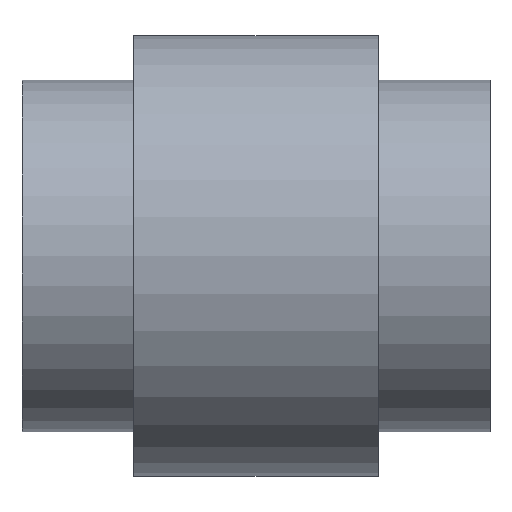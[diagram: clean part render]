
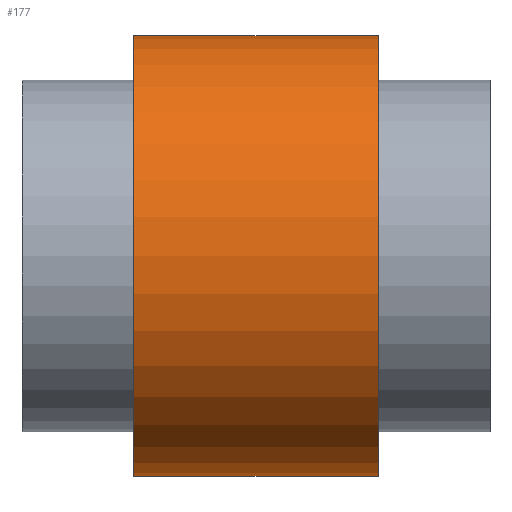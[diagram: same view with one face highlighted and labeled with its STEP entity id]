
A CAD part, top view. The second image highlights one B-rep face of the part: STEP entity #177.
In plain terms, the highlighted cylindrical face has radius 445 mm (diameter 890 mm), a partial arc.
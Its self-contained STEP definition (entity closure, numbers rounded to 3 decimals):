
#11=CARTESIAN_POINT('',(246.5,0.,0.));
#12=DIRECTION('',(1.,0.,0.));
#13=DIRECTION('',(0.,1.,0.));
#14=AXIS2_PLACEMENT_3D('',#11,#12,#13);
#16=DIRECTION('',(-1.,0.,0.));
#17=VECTOR('',#16,493.);
#18=CARTESIAN_POINT('',(246.5,445.,0.));
#19=LINE('',#18,#17);
#20=DIRECTION('',(-1.,0.,0.));
#21=VECTOR('',#20,493.);
#22=CARTESIAN_POINT('',(246.5,-445.,0.));
#23=LINE('',#22,#21);
#34=CARTESIAN_POINT('',(-246.5,0.,0.));
#35=DIRECTION('',(1.,0.,0.));
#36=DIRECTION('',(0.,1.,0.));
#37=AXIS2_PLACEMENT_3D('',#34,#35,#36);
#113=CARTESIAN_POINT('',(246.5,445.,0.));
#114=CARTESIAN_POINT('',(-246.5,445.,0.));
#115=VERTEX_POINT('',#113);
#116=VERTEX_POINT('',#114);
#117=CARTESIAN_POINT('',(246.5,-445.,0.));
#118=CARTESIAN_POINT('',(-246.5,-445.,0.));
#119=VERTEX_POINT('',#117);
#120=VERTEX_POINT('',#118);
#163=CARTESIAN_POINT('',(-519.75,0.,0.));
#164=DIRECTION('',(1.,0.,0.));
#165=DIRECTION('',(0.,-1.,0.));
#166=AXIS2_PLACEMENT_3D('',#163,#164,#165);
#167=CYLINDRICAL_SURFACE('',#166,445.);
#169=ORIENTED_EDGE('',*,*,#168,.F.);
#170=ORIENTED_EDGE('',*,*,#150,.T.);
#172=ORIENTED_EDGE('',*,*,#171,.T.);
#174=ORIENTED_EDGE('',*,*,#173,.F.);
#175=EDGE_LOOP('',(#169,#170,#172,#174));
#176=FACE_OUTER_BOUND('',#175,.F.);
#177=ADVANCED_FACE('',(#176),#167,.T.);
#15=CIRCLE('',#14,445.);
#38=CIRCLE('',#37,445.);
#150=EDGE_CURVE('',#115,#119,#15,.T.);
#168=EDGE_CURVE('',#115,#116,#19,.T.);
#171=EDGE_CURVE('',#119,#120,#23,.T.);
#173=EDGE_CURVE('',#116,#120,#38,.T.);
